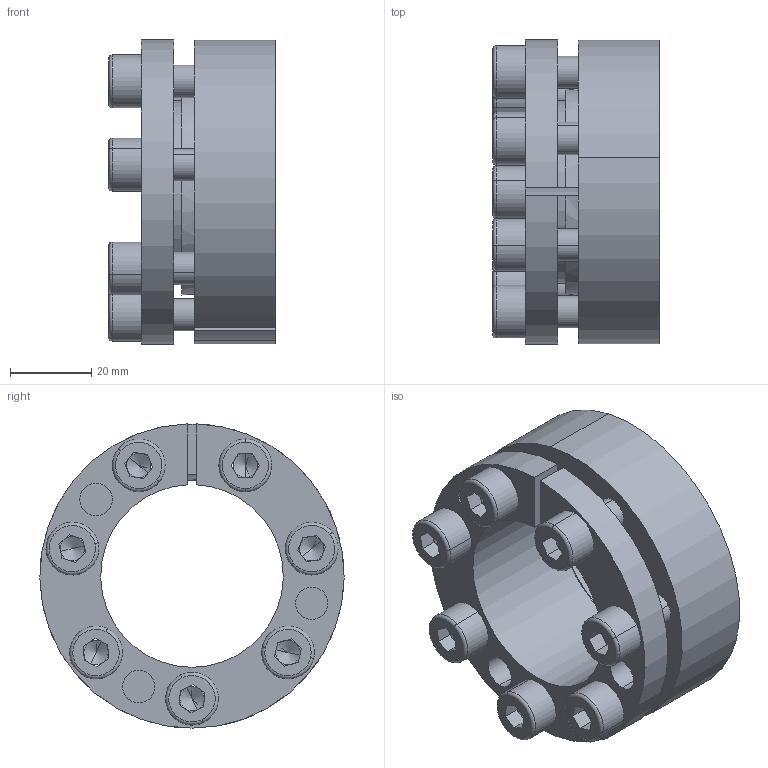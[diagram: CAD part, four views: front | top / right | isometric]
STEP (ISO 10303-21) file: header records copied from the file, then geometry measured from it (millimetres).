
FILE_DESCRIPTION (( 'STEP AP203' ), '1' );
FILE_NAME ('D2-45-75.STEP', '2017-10-12T04:16:53', ( 'MYCOM' ), ( '' ), 'SwSTEP 2.0', 'SolidWorks 2015', '' );
FILE_SCHEMA (( 'CONFIG_CONTROL_DESIGN' ));
Length unit declared in the file: millimetre
Products named in the file (1): D2-45-75
Bounding box: 41 x 74.99 x 74.99 mm (x, y, z)
Surface area: 39792.5 mm2 (no closed solid volume)
Topology: 0 solids, 16 shells, 196 faces, 504 edges, 305 vertices
Faces by surface type: plane 94, cylinder 70, cone 18, torus 14
Entity records: 5955 total; most frequent: DIRECTION 1096, CARTESIAN_POINT 1013, ORIENTED_EDGE 916, EDGE_CURVE 490, AXIS2_PLACEMENT_3D 413, VERTEX_POINT 305, VECTOR 270, LINE 270
